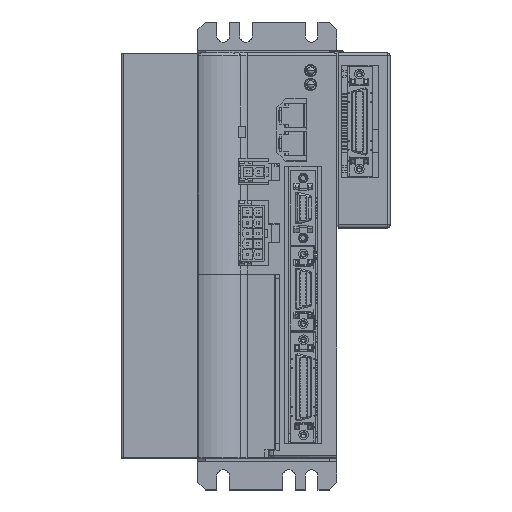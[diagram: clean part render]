
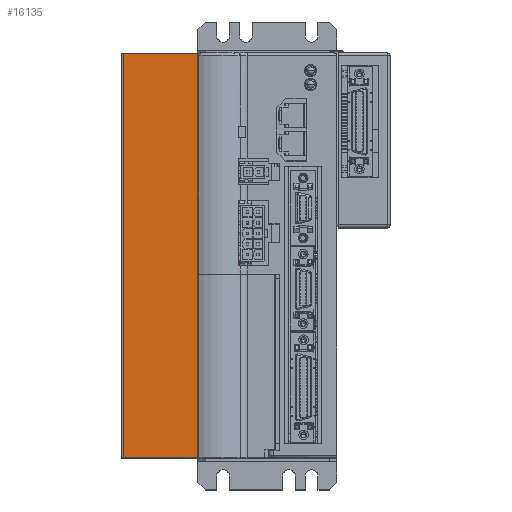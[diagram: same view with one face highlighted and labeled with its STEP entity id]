
A CAD part, top view. The second image highlights one B-rep face of the part: STEP entity #16135.
In plain terms, the highlighted planar face has unit normal (0, 0, 1).
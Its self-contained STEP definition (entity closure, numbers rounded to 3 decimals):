
#16135=ADVANCED_FACE('',(#60873),#60872,.T.);
#60872=PLANE('',#96806);
#60873=FACE_OUTER_BOUND('',#96807,.T.);
#96803=CARTESIAN_POINT('',(-39.55,-169.5,-14.9));
#96804=DIRECTION('',(0.,0.,1.));
#96805=DIRECTION('',(1.,0.,0.));
#96806=AXIS2_PLACEMENT_3D('',#96803,#96804,#96805);
#96807=EDGE_LOOP('',(#127651,#127652,#127653,#127654));
#127651=ORIENTED_EDGE('',*,*,#146598,.F.);
#127652=ORIENTED_EDGE('',*,*,#146712,.F.);
#127653=ORIENTED_EDGE('',*,*,#146599,.T.);
#127654=ORIENTED_EDGE('',*,*,#146474,.T.);
#146474=EDGE_CURVE('',#228273,#228265,#228274,.T.);
#146598=EDGE_CURVE('',#229132,#228265,#229139,.T.);
#146599=EDGE_CURVE('',#229145,#228273,#229146,.T.);
#146712=EDGE_CURVE('',#229145,#229132,#229933,.T.);
#228265=VERTEX_POINT('',#301677);
#228273=VERTEX_POINT('',#301682);
#228274=LINE('',#301683,#301684);
#229132=VERTEX_POINT('',#302235);
#229139=LINE('',#302240,#302241);
#229145=VERTEX_POINT('',#302243);
#229146=LINE('',#302244,#302245);
#229933=LINE('',#302747,#302748);
#301677=CARTESIAN_POINT('',(-7.1,0.5,-14.9));
#301682=CARTESIAN_POINT('',(-7.1,-159.5,-14.9));
#301683=CARTESIAN_POINT('',(-7.1,-159.5,-14.9));
#301684=VECTOR('',#301685,160.);
#301685=DIRECTION('',(0.,1.,0.));
#302235=CARTESIAN_POINT('',(-36.6,0.5,-14.9));
#302240=CARTESIAN_POINT('',(-36.6,0.5,-14.9));
#302241=VECTOR('',#302242,29.5);
#302242=DIRECTION('',(1.,0.,0.));
#302243=CARTESIAN_POINT('',(-36.6,-159.5,-14.9));
#302244=CARTESIAN_POINT('',(-36.6,-159.5,-14.9));
#302245=VECTOR('',#302246,29.5);
#302246=DIRECTION('',(1.,0.,0.));
#302747=CARTESIAN_POINT('',(-36.6,-159.5,-14.9));
#302748=VECTOR('',#302749,160.);
#302749=DIRECTION('',(0.,1.,0.));
